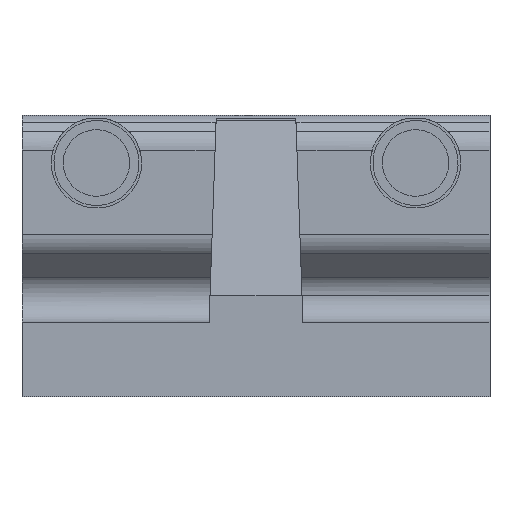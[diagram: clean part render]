
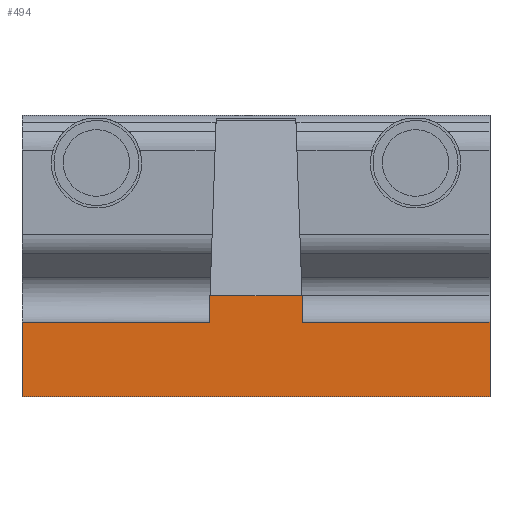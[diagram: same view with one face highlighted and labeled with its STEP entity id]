
A CAD part, front view. The second image highlights one B-rep face of the part: STEP entity #494.
In plain terms, the highlighted planar face has unit normal (0, -1, 0).
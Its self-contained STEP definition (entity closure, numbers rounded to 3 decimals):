
#494=ADVANCED_FACE('Solid.35',(#1137),#1138,.T.);
#1137=FACE_OUTER_BOUND('',#1992,.T.);
#1138=PLANE('',#1993);
#1992=EDGE_LOOP('',(#3331,#3332,#3333,#3334,#3335,#3336,#3337,#3338));
#1993=AXIS2_PLACEMENT_3D('',#3339,#3340,#3341);
#3331=ORIENTED_EDGE('',*,*,#5208,.F.);
#3332=ORIENTED_EDGE('',*,*,#5302,.T.);
#3333=ORIENTED_EDGE('',*,*,#5318,.T.);
#3334=ORIENTED_EDGE('',*,*,#5319,.F.);
#3335=ORIENTED_EDGE('',*,*,#5320,.T.);
#3336=ORIENTED_EDGE('',*,*,#5321,.F.);
#3337=ORIENTED_EDGE('',*,*,#5216,.T.);
#3338=ORIENTED_EDGE('',*,*,#5322,.F.);
#3339=CARTESIAN_POINT('',(0.0,-240.0,-25.));
#3340=DIRECTION('',(0.0,-1.0,0.0));
#3341=DIRECTION('',(0.0,0.0,-1.0));
#5208=EDGE_CURVE('',#6340,#6342,#6343,.T.);
#5216=EDGE_CURVE('',#6355,#6353,#6356,.T.);
#5302=EDGE_CURVE('',#6340,#6482,#6484,.T.);
#5318=EDGE_CURVE('',#6482,#6507,#6508,.T.);
#5319=EDGE_CURVE('',#6509,#6507,#6510,.F.);
#5320=EDGE_CURVE('',#6509,#6511,#6512,.F.);
#5321=EDGE_CURVE('',#6355,#6511,#6513,.T.);
#5322=EDGE_CURVE('',#6342,#6353,#6514,.T.);
#6340=VERTEX_POINT('',#7938);
#6342=VERTEX_POINT('',#7941);
#6343=LINE('',#7942,#7943);
#6353=VERTEX_POINT('',#7956);
#6355=VERTEX_POINT('',#7959);
#6356=LINE('',#7960,#7961);
#6482=VERTEX_POINT('',#8251);
#6484=LINE('',#8254,#8255);
#6507=VERTEX_POINT('',#8278);
#6508=LINE('',#8279,#8280);
#6509=VERTEX_POINT('',#8281);
#6510=LINE('',#8282,#8283);
#6511=VERTEX_POINT('',#8284);
#6512=LINE('',#8285,#8286);
#6513=LINE('',#8287,#8288);
#6514=LINE('',#8289,#8290);
#7938=CARTESIAN_POINT('',(44.0,-240.0,-30.0));
#7941=CARTESIAN_POINT('',(44.0,-240.0,-44.0));
#7942=CARTESIAN_POINT('',(44.0,-240.0,-37.0));
#7943=VECTOR('',#9642,1.0);
#7956=CARTESIAN_POINT('',(-44.0,-240.0,-44.0));
#7959=CARTESIAN_POINT('',(-44.0,-240.0,-30.0));
#7960=CARTESIAN_POINT('',(-44.0,-240.0,-37.0));
#7961=VECTOR('',#9650,1.0);
#8251=CARTESIAN_POINT('',(8.827,-240.0,-30.0));
#8254=CARTESIAN_POINT('',(26.413,-240.0,-30.0));
#8255=VECTOR('',#9741,1.0);
#8278=CARTESIAN_POINT('',(8.652,-240.0,-25.));
#8279=CARTESIAN_POINT('',(8.74,-240.0,-27.5));
#8280=VECTOR('',#9784,1.0);
#8281=CARTESIAN_POINT('',(-8.652,-240.0,-25.));
#8282=CARTESIAN_POINT('',(0.0,-240.0,-25.));
#8283=VECTOR('',#9785,1.0);
#8284=CARTESIAN_POINT('',(-8.827,-240.0,-30.0));
#8285=CARTESIAN_POINT('',(-8.74,-240.0,-27.5));
#8286=VECTOR('',#9786,1.0);
#8287=CARTESIAN_POINT('',(-26.413,-240.0,-30.0));
#8288=VECTOR('',#9787,1.0);
#8289=CARTESIAN_POINT('',(0.0,-240.0,-44.0));
#8290=VECTOR('',#9788,1.0);
#9642=DIRECTION('',(0.0,0.0,-1.0));
#9650=DIRECTION('',(0.0,0.0,-1.0));
#9741=DIRECTION('',(-1.0,0.0,0.0));
#9784=DIRECTION('',(-0.035,0.0,0.999));
#9785=DIRECTION('',(-1.0,0.0,0.));
#9786=DIRECTION('',(0.035,0.0,0.999));
#9787=DIRECTION('',(1.0,0.0,0.0));
#9788=DIRECTION('',(-1.0,0.0,0.0));
